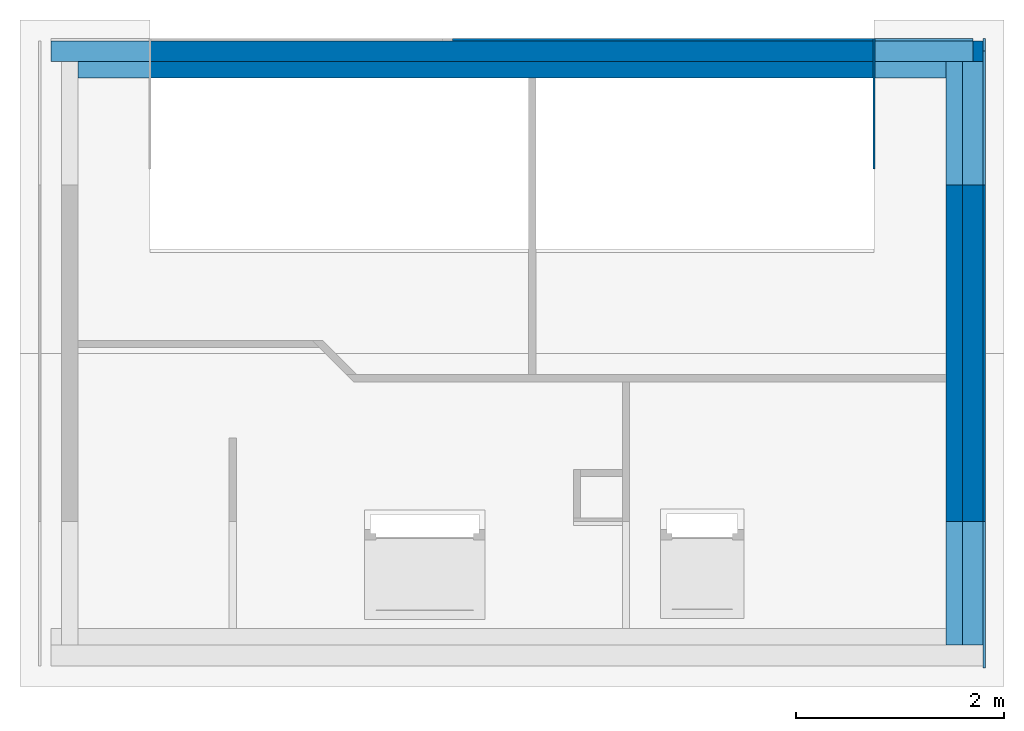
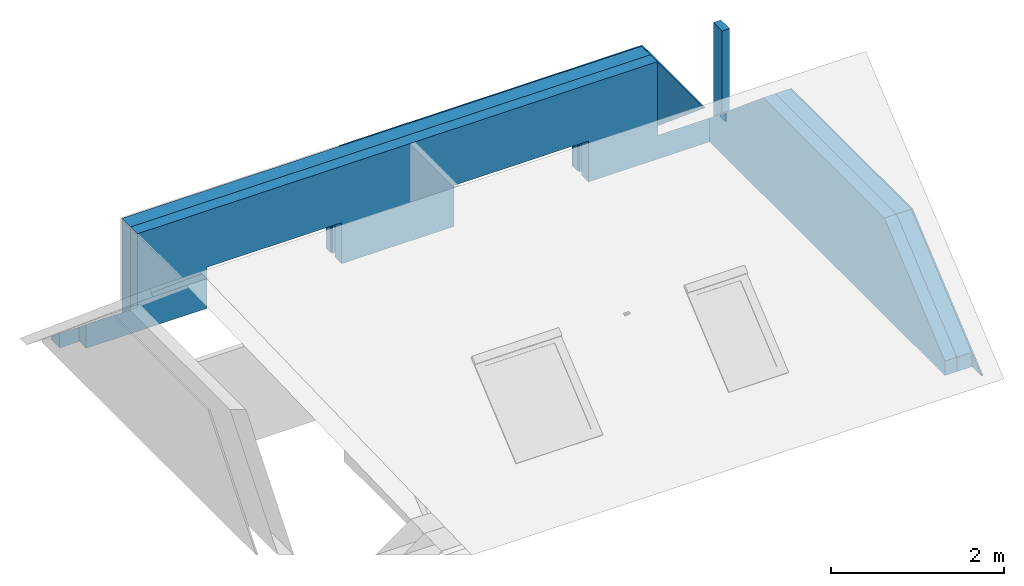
# One storey, part 2 of 5: 8 walls, 6 openings.
"""IFC2X3 building model written with IfcOpenShell, lengths in centimetres."""

from ifc_helpers import new_model, entity, si_unit, converted_unit, derived_unit, direction, frame, frame_2d, origin, place, context, subcontext, project, spatial, polyline, rectangle, outline, extrude, clip, halfspace, bounded_halfspace, faceted_brep, material, layer, layer_set, layer_usage, type_object, element, save


model = new_model("IFC2X3")

# Units and contexts
model_context = context("Model", 3, precision=0.001, world=origin(), true_north=direction((6.12303176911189e-17, 1.0)))
body_context = subcontext(model_context, "Body", "Model", "MODEL_VIEW")
ifc_project = project(units=[si_unit("LENGTHUNIT", "METRE", prefix="CENTI"), si_unit("AREAUNIT", "SQUARE_METRE"), si_unit("VOLUMEUNIT", "CUBIC_METRE"), converted_unit("PLANEANGLEUNIT", "DEGREE", entity("IfcRatioMeasure", 0.0174532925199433), si_unit("PLANEANGLEUNIT", "RADIAN"), dimensions=[0, 0, 0, 0, 0, 0, 0]), si_unit("MASSUNIT", "GRAM", prefix="KILO"), derived_unit("MASSDENSITYUNIT", [(si_unit("MASSUNIT", "GRAM", prefix="KILO"), 1), (si_unit("LENGTHUNIT", "METRE"), -3)]), derived_unit("MOMENTOFINERTIAUNIT", [(si_unit("LENGTHUNIT", "METRE"), 4)]), si_unit("TIMEUNIT", "SECOND"), si_unit("FREQUENCYUNIT", "HERTZ"), si_unit("THERMODYNAMICTEMPERATUREUNIT", "DEGREE_CELSIUS"), derived_unit("THERMALTRANSMITTANCEUNIT", [(si_unit("MASSUNIT", "GRAM", prefix="KILO"), 1), (si_unit("THERMODYNAMICTEMPERATUREUNIT", "KELVIN"), -1), (si_unit("TIMEUNIT", "SECOND"), -3)]), derived_unit("VOLUMETRICFLOWRATEUNIT", [(si_unit("LENGTHUNIT", "METRE"), 3), (si_unit("TIMEUNIT", "SECOND"), -1)]), si_unit("ELECTRICCURRENTUNIT", "AMPERE"), si_unit("ELECTRICVOLTAGEUNIT", "VOLT"), si_unit("POWERUNIT", "WATT"), si_unit("FORCEUNIT", "NEWTON", prefix="KILO"), si_unit("ILLUMINANCEUNIT", "LUX"), si_unit("LUMINOUSFLUXUNIT", "LUMEN"), si_unit("LUMINOUSINTENSITYUNIT", "CANDELA"), derived_unit("USERDEFINED", [(si_unit("MASSUNIT", "GRAM", prefix="KILO"), -1), (si_unit("LENGTHUNIT", "METRE"), -2), (si_unit("TIMEUNIT", "SECOND"), 3), (si_unit("LUMINOUSFLUXUNIT", "LUMEN"), 1)]), derived_unit("LINEARVELOCITYUNIT", [(si_unit("LENGTHUNIT", "METRE"), 1), (si_unit("TIMEUNIT", "SECOND"), -1)]), si_unit("PRESSUREUNIT", "PASCAL"), derived_unit("USERDEFINED", [(si_unit("LENGTHUNIT", "METRE"), -2), (si_unit("MASSUNIT", "GRAM", prefix="KILO"), 1), (si_unit("TIMEUNIT", "SECOND"), -2)]), derived_unit("LINEARFORCEUNIT", [(si_unit("MASSUNIT", "GRAM", prefix="KILO"), 1), (si_unit("LENGTHUNIT", "METRE"), 1), (si_unit("TIMEUNIT", "SECOND"), -2), (si_unit("LENGTHUNIT", "METRE"), -1)]), derived_unit("PLANARFORCEUNIT", [(si_unit("MASSUNIT", "GRAM", prefix="KILO"), 1), (si_unit("LENGTHUNIT", "METRE"), 1), (si_unit("TIMEUNIT", "SECOND"), -2), (si_unit("LENGTHUNIT", "METRE"), -2)])], contexts=[model_context])

# Site, building, storey
site_placement = place(None, origin())
site = spatial("IfcSite", under=ifc_project, at=site_placement, Name="Surface", CompositionType="ELEMENT")
building_placement = place(site_placement, origin())
building = spatial("IfcBuilding", under=site, at=building_placement, CompositionType="ELEMENT")
storey_placement = place(building_placement, frame((0.0, 0.0, 365.0)))
storey = spatial("IfcBuildingStorey", under=building, at=storey_placement, Name="3.65_Sablière", CompositionType="ELEMENT", Elevation=365.0)

# Wall, openings
ifc_material_1 = material(Name="Maçonnerie - Béton")
ifc_layer_1 = layer(ifc_material_1, 20.0)
ifc_layer_set_1 = layer_set([ifc_layer_1], Name="Mur de base:Mur 20")
ifc_layer_usage_1 = layer_usage(ifc_layer_set_1, "AXIS2", "POSITIVE", -10.0)
wall_type_1 = type_object("IfcWallType", Name="Mur de base:Mur 20", PredefinedType="STANDARD", material=ifc_layer_set_1)
wall_1_placement = place(storey_placement, frame((-882.177260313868, 711.99231712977, 0.0), z_axis=(0.0, 0.0, 1.0), x_axis=(-1.0, 0.0, 0.0)))
wall_1 = element("IfcWallStandardCase", 1, at=wall_1_placement, inside=storey, type_object=wall_type_1, material=ifc_layer_usage_1, Name="Mur de base:Mur 20", ObjectType="Mur de base:Mur 20", context=body_context, shape_type="Clipping", body=[
    clip(clip(clip(extrude(rectangle(XDim=896.000000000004, YDim=20.0, at=frame_2d((448.000000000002, -4.44089209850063e-15), x_axis=(-1.0, 0.0))), origin(), (0.0, 0.0, 1.0), 138.0), bounded_halfspace(frame((0.0, -10.0, 3.73199262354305), z_axis=(0.0, -0.642787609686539, 0.766044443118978), x_axis=(1.0, 0.0, 0.0)), False, frame((0.0, -10.0, 3.73199262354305)), polyline([(0.0, 0.0), (105.0, 0.0), (105.0, 20.0), (36.0, 20.0), (20.0, 20.0), (0.0, 20.0), (0.0, 10.0), (0.0, 0.0)]))), bounded_halfspace(frame((801.0, -10.0, 3.73199262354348), z_axis=(0.0, -0.642787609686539, 0.766044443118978), x_axis=(1.0, 0.0, 0.0)), False, frame((801.0, -10.0, 3.73199262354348)), polyline([(0.0, 0.0), (95.0, 0.0), (95.0, 20.0), (69.0, 20.0), (0.0, 20.0), (0.0, 0.0)]))), halfspace(frame((0.0, 0.0, -108.0)), True)),
])
opening_1_placement = place(wall_1_placement, frame((383.0, 50.0, -28.9654202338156), z_axis=(0.0, 0.0, 1.0), x_axis=(-1.0, 0.0, 0.0)))
element("IfcOpeningElement", 2, at=opening_1_placement, cuts=wall_1, Name="Mur de base:Mur 20", ObjectType="Opening", context=body_context, shape_type="Brep", body=[
    faceted_brep([(5.0, 48.0, 6.96542023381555), (5.0, 50.0, 6.96542023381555), (5.0, 50.0, 86.9654202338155), (5.0, 100.0, 86.9654202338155), (5.0, 100.0, 0.0), (5.0, 48.0, 5.46542023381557), (185.0, 0.0, 6.96542023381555), (185.0, 40.0, 6.96542023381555), (185.0, 40.0, 86.9654202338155), (185.0, 0.0, 86.9654202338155), (5.0, 0.0, 6.96542023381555), (5.0, 40.0, 6.96542023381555), (0.0, 40.0, 6.96542023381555), (0.0, 47.0, 6.96542023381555), (4.0, 47.0, 6.96542023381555), (4.0, 50.0, 6.96542023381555), (185.0, 48.0, 6.96542023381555), (185.0, 50.0, 6.96542023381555), (186.0, 50.0, 6.96542023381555), (186.0, 47.0, 6.96542023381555), (190.0, 47.0, 6.96542023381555), (190.0, 40.0, 6.96542023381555), (5.0, 0.0, 86.9654202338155), (185.0, 50.0, 86.9654202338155), (185.0, 100.0, 86.9654202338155), (185.0, 100.0, 0.0), (185.0, 48.0, 5.46542023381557), (0.0, 40.0, 91.9654202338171), (0.0, 47.0, 91.9654202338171), (190.0, 47.0, 91.9654202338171), (186.0, 47.0, 87.9654202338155), (4.0, 47.0, 87.9654202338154), (4.0, 50.0, 87.9654202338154), (186.0, 50.0, 87.9654202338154), (5.0, 40.0, 86.9654202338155), (190.0, 40.0, 91.9654202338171)], [[[0, 1, 2, 3, 4, 5]], [[6, 7, 8, 9]], [[10, 11, 12, 13, 14, 15, 1, 0, 16, 17, 18, 19, 20, 21, 7, 6]], [[10, 6, 9, 22]], [[3, 2, 23, 24]], [[3, 24, 25, 4]], [[4, 25, 26, 5]], [[5, 26, 16, 0]], [[12, 27, 28, 13]], [[13, 28, 29, 20, 19, 30, 31, 14]], [[14, 31, 32, 15]], [[15, 32, 33, 18, 17, 23, 2, 1]], [[11, 34, 8, 7, 21, 35, 27, 12]], [[27, 35, 29, 28]], [[30, 33, 32, 31]], [[29, 35, 21, 20]], [[19, 18, 33, 30]], [[9, 8, 34, 22]], [[24, 23, 17, 16, 26, 25]], [[22, 34, 11, 10]]]),
])
opening_2_placement = place(wall_1_placement, frame((713.0, 50.0, -28.9654202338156), z_axis=(0.0, 0.0, 1.0), x_axis=(-1.0, 0.0, 0.0)))
element("IfcOpeningElement", 3, at=opening_2_placement, cuts=wall_1, Name="Mur de base:Mur 20", ObjectType="Opening", context=body_context, shape_type="Brep", body=[
    faceted_brep([(5.0, 48.0, 6.96542023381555), (5.0, 50.0, 6.96542023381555), (5.0, 50.0, 86.9654202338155), (5.0, 100.0, 86.9654202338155), (5.0, 100.0, 0.0), (5.0, 48.0, 5.46542023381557), (185.0, 0.0, 6.96542023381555), (185.0, 40.0, 6.96542023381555), (185.0, 40.0, 86.9654202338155), (185.0, 0.0, 86.9654202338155), (5.0, 0.0, 6.96542023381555), (5.0, 40.0, 6.96542023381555), (0.0, 40.0, 6.96542023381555), (0.0, 47.0, 6.96542023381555), (4.0, 47.0, 6.96542023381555), (4.0, 50.0, 6.96542023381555), (185.0, 48.0, 6.96542023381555), (185.0, 50.0, 6.96542023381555), (186.0, 50.0, 6.96542023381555), (186.0, 47.0, 6.96542023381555), (190.0, 47.0, 6.96542023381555), (190.0, 40.0, 6.96542023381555), (5.0, 0.0, 86.9654202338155), (185.0, 50.0, 86.9654202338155), (185.0, 100.0, 86.9654202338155), (185.0, 100.0, 0.0), (185.0, 48.0, 5.46542023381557), (0.0, 40.0, 91.9654202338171), (0.0, 47.0, 91.9654202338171), (190.0, 47.0, 91.9654202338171), (186.0, 47.0, 87.9654202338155), (4.0, 47.0, 87.9654202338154), (4.0, 50.0, 87.9654202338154), (186.0, 50.0, 87.9654202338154), (5.0, 40.0, 86.9654202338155), (190.0, 40.0, 91.9654202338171)], [[[0, 1, 2, 3, 4, 5]], [[6, 7, 8, 9]], [[10, 11, 12, 13, 14, 15, 1, 0, 16, 17, 18, 19, 20, 21, 7, 6]], [[10, 6, 9, 22]], [[3, 2, 23, 24]], [[3, 24, 25, 4]], [[4, 25, 26, 5]], [[5, 26, 16, 0]], [[12, 27, 28, 13]], [[13, 28, 29, 20, 19, 30, 31, 14]], [[14, 31, 32, 15]], [[15, 32, 33, 18, 17, 23, 2, 1]], [[11, 34, 8, 7, 21, 35, 27, 12]], [[27, 35, 29, 28]], [[30, 33, 32, 31]], [[29, 35, 21, 20]], [[19, 18, 33, 30]], [[9, 8, 34, 22]], [[24, 23, 17, 16, 26, 25]], [[22, 34, 11, 10]]]),
])

# Wall
ifc_layer_usage_2 = layer_usage(ifc_layer_set_1, "AXIS2", "NEGATIVE", 10.0)
wall_2_placement = place(storey_placement, frame((-892.177260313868, 721.992317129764, 0.0), z_axis=(0.0, 0.0, 1.0), x_axis=(0.0, -1.0, 0.0)))
element("IfcWallStandardCase", 4, at=wall_2_placement, inside=storey, type_object=wall_type_1, material=ifc_layer_usage_2, Name="Mur de base:Mur 20", ObjectType="Mur de base:Mur 20", context=body_context, shape_type="Clipping", body=[
    clip(clip(clip(extrude(outline(polyline([(581.0, -10.0), (581.0, 10.0), (0.0, 10.0), (0.0, 0.0), (20.0, 0.0), (20.0, -10.0), (581.0, -10.0)])), origin(), (0.0, 0.0, 1.0), 138.0), bounded_halfspace(frame((20.0, -10.0, 20.5139852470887), z_axis=(-0.642787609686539, 0.0, 0.766044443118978), x_axis=(0.0, -1.0, 0.0)), False, frame((20.0, -10.0, 20.5139852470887)), polyline([(0.0, 0.0), (280.500000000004, 0.0), (280.500000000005, 20.0), (0.0, 20.0), (0.0, 0.0)]))), bounded_halfspace(frame((300.499999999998, -10.0, 255.881431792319), z_axis=(0.642787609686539, 0.0, 0.766044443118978), x_axis=(0.0, 1.0, 0.0)), False, frame((300.499999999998, -10.0, 255.881431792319)), polyline([(0.0, 0.0), (280.499999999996, 0.0), (280.499999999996, 20.0), (0.0, 20.0), (0.0, 0.0)]))), halfspace(frame((0.0, 0.0, -108.0)), True)),
])

# Wall, openings
ifc_material_2 = material(Name="Maçonnerie - Enduit")
ifc_layer_2 = layer(ifc_material_2, 2.0)
ifc_layer_set_2 = layer_set([ifc_layer_2], Name="Mur de base:Enduit 2")
ifc_layer_usage_3 = layer_usage(ifc_layer_set_2, "AXIS2", "POSITIVE", -1.0)
wall_type_2 = type_object("IfcWallType", Name="Mur de base:Enduit 2", PredefinedType="STANDARD", material=ifc_layer_set_2)
wall_3_placement = place(storey_placement, frame((-882.177260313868, 722.992317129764, 0.0), z_axis=(0.0, 0.0, 1.0), x_axis=(-1.0, 0.0, 0.0)))
wall_3 = element("IfcWallStandardCase", 5, at=wall_3_placement, inside=storey, type_object=wall_type_2, material=ifc_layer_usage_3, Name="Mur de base:Enduit 2", ObjectType="Mur de base:Enduit 2", context=body_context, shape_type="Clipping", body=[
    clip(clip(extrude(rectangle(XDim=500.000000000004, YDim=1.99999999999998, at=frame_2d((260.000000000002, 2.48134846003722e-14), x_axis=(-1.0, 0.0))), origin(), (0.0, 0.0, 1.0), 138.0), bounded_halfspace(frame((0.0, -1.0, 2.05379336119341), z_axis=(0.0, -0.642787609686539, 0.766044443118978), x_axis=(1.0, 0.0, 0.0)), False, frame((0.0, -1.0, 2.05379336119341)), polyline([(0.0, 0.0), (105.0, 0.0), (105.0, 2.0), (0.0, 2.0), (0.0, 0.0)]))), halfspace(frame((0.0, 0.0, -373.0)), True)),
])
opening_3_placement = place(wall_3_placement, frame((383.0, 61.0, -28.9654202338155)))
element("IfcOpeningElement", 6, at=opening_3_placement, cuts=wall_3, Name="Mur de base:Enduit 2", ObjectType="Opening", context=body_context, shape_type="Brep", body=[
    faceted_brep([(-5.0, -48.0, 6.96542023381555), (-5.0, -50.0, 6.96542023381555), (-5.0, -50.0, 86.9654202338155), (-5.0, -100.0, 86.9654202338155), (-5.0, -100.0, 0.0), (-5.0, -48.0, 5.46542023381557), (-185.0, 0.0, 6.96542023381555), (-185.0, -40.0, 6.96542023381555), (-185.0, -40.0, 86.9654202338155), (-185.0, 0.0, 86.9654202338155), (-5.0, 0.0, 6.96542023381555), (-5.0, -40.0, 6.96542023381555), (0.0, -40.0, 6.96542023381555), (0.0, -47.0, 6.96542023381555), (-4.0, -47.0, 6.96542023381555), (-4.0, -50.0, 6.96542023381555), (-185.0, -48.0, 6.96542023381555), (-185.0, -50.0, 6.96542023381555), (-186.0, -50.0, 6.96542023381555), (-186.0, -47.0, 6.96542023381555), (-190.0, -47.0, 6.96542023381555), (-190.0, -40.0, 6.96542023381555), (-5.0, 0.0, 86.9654202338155), (-185.0, -50.0, 86.9654202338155), (-185.0, -100.0, 86.9654202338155), (-185.0, -100.0, 0.0), (-185.0, -48.0, 5.46542023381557), (0.0, -40.0, 91.9654202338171), (0.0, -47.0, 91.9654202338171), (-190.0, -47.0, 91.9654202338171), (-186.0, -47.0, 87.9654202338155), (-4.0, -47.0, 87.9654202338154), (-4.0, -50.0, 87.9654202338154), (-186.0, -50.0, 87.9654202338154), (-5.0, -40.0, 86.9654202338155), (-190.0, -40.0, 91.9654202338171)], [[[0, 1, 2, 3, 4, 5]], [[6, 7, 8, 9]], [[10, 11, 12, 13, 14, 15, 1, 0, 16, 17, 18, 19, 20, 21, 7, 6]], [[10, 6, 9, 22]], [[3, 2, 23, 24]], [[3, 24, 25, 4]], [[4, 25, 26, 5]], [[5, 26, 16, 0]], [[12, 27, 28, 13]], [[13, 28, 29, 20, 19, 30, 31, 14]], [[14, 31, 32, 15]], [[15, 32, 33, 18, 17, 23, 2, 1]], [[11, 34, 8, 7, 21, 35, 27, 12]], [[27, 35, 29, 28]], [[30, 33, 32, 31]], [[29, 35, 21, 20]], [[19, 18, 33, 30]], [[9, 8, 34, 22]], [[24, 23, 17, 16, 26, 25]], [[22, 34, 11, 10]]]),
])
opening_4_placement = place(wall_3_placement, frame((713.0, 61.0, -28.9654202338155)))
element("IfcOpeningElement", 7, at=opening_4_placement, cuts=wall_3, Name="Mur de base:Enduit 2", ObjectType="Opening", context=body_context, shape_type="Brep", body=[
    faceted_brep([(-5.0, -48.0, 6.96542023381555), (-5.0, -50.0, 6.96542023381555), (-5.0, -50.0, 86.9654202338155), (-5.0, -100.0, 86.9654202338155), (-5.0, -100.0, 0.0), (-5.0, -48.0, 5.46542023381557), (-185.0, 0.0, 6.96542023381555), (-185.0, -40.0, 6.96542023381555), (-185.0, -40.0, 86.9654202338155), (-185.0, 0.0, 86.9654202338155), (-5.0, 0.0, 6.96542023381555), (-5.0, -40.0, 6.96542023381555), (0.0, -40.0, 6.96542023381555), (0.0, -47.0, 6.96542023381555), (-4.0, -47.0, 6.96542023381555), (-4.0, -50.0, 6.96542023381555), (-185.0, -48.0, 6.96542023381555), (-185.0, -50.0, 6.96542023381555), (-186.0, -50.0, 6.96542023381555), (-186.0, -47.0, 6.96542023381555), (-190.0, -47.0, 6.96542023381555), (-190.0, -40.0, 6.96542023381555), (-5.0, 0.0, 86.9654202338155), (-185.0, -50.0, 86.9654202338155), (-185.0, -100.0, 86.9654202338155), (-185.0, -100.0, 0.0), (-185.0, -48.0, 5.46542023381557), (0.0, -40.0, 91.9654202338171), (0.0, -47.0, 91.9654202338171), (-190.0, -47.0, 91.9654202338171), (-186.0, -47.0, 87.9654202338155), (-4.0, -47.0, 87.9654202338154), (-4.0, -50.0, 87.9654202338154), (-186.0, -50.0, 87.9654202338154), (-5.0, -40.0, 86.9654202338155), (-190.0, -40.0, 91.9654202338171)], [[[0, 1, 2, 3, 4, 5]], [[6, 7, 8, 9]], [[10, 11, 12, 13, 14, 15, 1, 0, 16, 17, 18, 19, 20, 21, 7, 6]], [[10, 6, 9, 22]], [[3, 2, 23, 24]], [[3, 24, 25, 4]], [[4, 25, 26, 5]], [[5, 26, 16, 0]], [[12, 27, 28, 13]], [[13, 28, 29, 20, 19, 30, 31, 14]], [[14, 31, 32, 15]], [[15, 32, 33, 18, 17, 23, 2, 1]], [[11, 34, 8, 7, 21, 35, 27, 12]], [[27, 35, 29, 28]], [[30, 33, 32, 31]], [[29, 35, 21, 20]], [[19, 18, 33, 30]], [[9, 8, 34, 22]], [[24, 23, 17, 16, 26, 25]], [[22, 34, 11, 10]]]),
])

# Walls
ifc_layer_usage_4 = layer_usage(ifc_layer_set_2, "AXIS2", "NEGATIVE", 1.0)
wall_4_placement = place(storey_placement, frame((-881.177260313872, 711.992317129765, 0.0), z_axis=(0.0, 0.0, 1.0), x_axis=(0.0, -1.0, 0.0)))
element("IfcWallStandardCase", 8, at=wall_4_placement, inside=storey, type_object=wall_type_2, material=ifc_layer_usage_4, Name="Mur de base:Enduit 2", ObjectType="Mur de base:Enduit 2", context=body_context, shape_type="Clipping", body=[
    clip(clip(clip(extrude(rectangle(XDim=592.999999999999, YDim=1.99999999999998, at=frame_2d((296.5, -7.71605002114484e-15), x_axis=(-1.0, 0.0))), origin(), (0.0, 0.0, 1.0), 138.0), bounded_halfspace(frame((0.0, -1.0, 12.1229889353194), z_axis=(-0.642787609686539, 0.0, 0.766044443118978), x_axis=(0.0, -1.0, 0.0)), False, frame((0.0, -1.0, 12.1229889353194)), polyline([(0.0, 0.0), (290.5, 0.0), (290.5, 2.0), (0.0, 2.0), (0.0, 0.0)]))), bounded_halfspace(frame((290.5, -1.0, 255.88143179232), z_axis=(0.642787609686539, 0.0, 0.766044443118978), x_axis=(0.0, 1.0, 0.0)), False, frame((290.5, -1.0, 255.88143179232)), polyline([(0.0, 0.0), (300.499999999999, 0.0), (302.499999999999, 0.0), (302.499999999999, 2.0), (0.0, 2.0), (0.0, 0.0)]))), halfspace(frame((0.0, 0.0, -108.0)), True)),
])
ifc_layer_usage_5 = layer_usage(ifc_layer_set_2, "AXIS2", "POSITIVE", -1.0)
wall_5_placement = place(storey_placement, frame((-881.177260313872, 711.992317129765, 0.0), z_axis=(0.0, 0.0, 1.0), x_axis=(0.0, 1.0, 0.0)))
element("IfcWallStandardCase", 9, at=wall_5_placement, inside=storey, type_object=wall_type_2, material=ifc_layer_usage_5, Name="Mur de base:Enduit 2", ObjectType="Mur de base:Enduit 2", context=body_context, shape_type="Clipping", body=[
    clip(clip(clip(extrude(rectangle(XDim=11.9999999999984, YDim=1.99999999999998, at=frame_2d((5.99999999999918, 0.0), x_axis=(-1.0, 0.0))), origin(), (0.0, 0.0, 1.0), 12.1229889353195), bounded_halfspace(frame((12.0, -1.0, 2.05379336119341), z_axis=(0.642787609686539, 0.0, 0.766044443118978), x_axis=(0.0, 1.0, 0.0)), False, frame((12.0, -1.0, 2.05379336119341)), polyline([(0.0, 0.0), (0.0, 2.0), (-2.0, 2.0), (-12.0, 2.0), (-12.0, 0.0), (0.0, 0.0)]))), bounded_halfspace(frame((0.0, -1.0, -83.0), z_axis=(1.0, 0.0, 0.0), x_axis=(0.0, -1.0, 0.0)), True, frame((0.0, -1.0, -83.0), z_axis=(1.0, 0.0, 0.0), x_axis=(0.0, -1.0, 0.0)), polyline([(0.0, 0.0), (-2.0, 0.0), (-2.0, -95.1229889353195), (0.0, -95.1229889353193), (0.0, 0.0)]))), halfspace(frame((0.0, 0.0, -83.0)), True)),
])
ifc_material_3 = material(Name="Zinc")
ifc_layer_3 = layer(ifc_material_3, 2.0)
ifc_layer_set_3 = layer_set([ifc_layer_3], Name="Mur de base:Bardage zinc")
ifc_layer_usage_6 = layer_usage(ifc_layer_set_3, "AXIS2", "POSITIVE", -1.0)
wall_type_3 = type_object("IfcWallType", Name="Mur de base:Bardage zinc", PredefinedType="STANDARD", material=ifc_layer_set_3)
wall_6_placement = place(storey_placement, frame((-987.177260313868, 723.992317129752, 15.1078662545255), z_axis=(0.0, 0.0, 1.0), x_axis=(0.0, -1.0, 0.0)))
element("IfcWallStandardCase", 10, at=wall_6_placement, inside=storey, type_object=wall_type_3, material=ifc_layer_usage_6, Name="Mur de base:Bardage zinc", ObjectType="Mur de base:Bardage zinc", context=body_context, shape_type="Clipping", body=[
    clip(clip(extrude(rectangle(XDim=205.747191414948, YDim=1.99999999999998, at=frame_2d((102.873595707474, 0.0), x_axis=(-1.0, 0.0))), origin(), (0.0, 0.0, 1.0), 122.892133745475), halfspace(frame((205.747191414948, -1.0, 172.642392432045), z_axis=(0.642787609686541, 0.0, -0.766044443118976), x_axis=(0.0, 1.0, 0.0)), False)), halfspace(frame((0.0, 0.0, -15.1078662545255)), True)),
])
ifc_material_4 = material(Name="Isolant rigide")
ifc_layer_4 = layer(ifc_material_4, 16.0)
ifc_layer_set_4 = layer_set([ifc_layer_4], Name="Mur de base:Doublage 16")
ifc_layer_usage_7 = layer_usage(ifc_layer_set_4, "AXIS2", "POSITIVE", -8.0)
wall_type_4 = type_object("IfcWallType", Name="Mur de base:Doublage 16", PredefinedType="STANDARD", material=ifc_layer_set_4)
wall_7_placement = place(storey_placement, frame((-910.177260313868, 701.99231712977, 0.0), z_axis=(0.0, 0.0, 1.0), x_axis=(0.0, -1.0, 0.0)))
element("IfcWallStandardCase", 11, at=wall_7_placement, inside=storey, type_object=wall_type_4, material=ifc_layer_usage_7, Name="Mur de base:Doublage 16", ObjectType="Mur de base:Doublage 16", context=body_context, shape_type="Clipping", body=[
    clip(clip(clip(extrude(rectangle(XDim=561.0, YDim=16.0, at=frame_2d((280.5, 0.0), x_axis=(-1.0, 0.0))), origin(), (0.0, 0.0, 1.0), 138.0), bounded_halfspace(frame((0.0, -8.0, 20.5139852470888), z_axis=(-0.642787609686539, 0.0, 0.766044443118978), x_axis=(0.0, -1.0, 0.0)), False, frame((0.0, -8.0, 20.5139852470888)), polyline([(0.0, 0.0), (16.0, 0.0), (280.500000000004, 0.0), (280.500000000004, 16.0), (0.0, 16.0), (0.0, 0.0)]))), bounded_halfspace(frame((280.500000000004, -8.0, 255.881431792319), z_axis=(0.642787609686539, 0.0, 0.766044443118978), x_axis=(0.0, 1.0, 0.0)), False, frame((280.500000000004, -8.0, 255.881431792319)), polyline([(0.0, 0.0), (280.499999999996, 0.0), (280.499999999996, 16.0), (0.0, 16.0), (0.0, 0.0)]))), halfspace(frame((0.0, 0.0, -102.0)), True)),
])

# Wall, openings
ifc_layer_usage_8 = layer_usage(ifc_layer_set_4, "AXIS2", "POSITIVE", -8.0)
wall_8_placement = place(storey_placement, frame((-1752.17726031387, 693.992317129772, 0.0)))
wall_8 = element("IfcWallStandardCase", 12, at=wall_8_placement, inside=storey, type_object=wall_type_4, material=ifc_layer_usage_8, Name="Mur de base:Doublage 16", ObjectType="Mur de base:Doublage 16", context=body_context, shape_type="Clipping", body=[
    clip(clip(clip(extrude(rectangle(XDim=834.000000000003, YDim=16.0, at=frame_2d((417.000000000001, 0.0), x_axis=(-1.0, 0.0))), origin(), (0.0, 0.0, 1.0), 138.0), bounded_halfspace(frame((765.0, -8.0, 33.9395793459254), z_axis=(0.0, 0.642787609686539, 0.766044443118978), x_axis=(-1.0, 0.0, 0.0)), False, frame((765.0, -8.0, 33.9395793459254)), polyline([(0.0, 0.0), (69.0, 0.0), (69.0, 16.0), (0.0, 16.0), (0.0, 0.0)]))), bounded_halfspace(frame((0.0, -8.0, 33.9395793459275), z_axis=(0.0, 0.642787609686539, 0.766044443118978), x_axis=(-1.0, 0.0, 0.0)), False, frame((0.0, -8.0, 33.9395793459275)), polyline([(0.0, 0.0), (69.0, 0.0), (69.0, 16.0), (0.0, 16.0), (0.0, 0.0)]))), halfspace(frame((0.0, 0.0, -102.0)), True)),
])
opening_5_placement = place(wall_8_placement, frame((157.0, -32.0, -28.9654202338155)))
element("IfcOpeningElement", 13, at=opening_5_placement, cuts=wall_8, Name="Mur de base:Doublage 16", ObjectType="Opening", context=body_context, shape_type="Brep", body=[
    faceted_brep([(5.0, 48.0, 6.96542023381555), (5.0, 50.0, 6.96542023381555), (5.0, 50.0, 86.9654202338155), (5.0, 100.0, 86.9654202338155), (5.0, 100.0, 0.0), (5.0, 48.0, 5.46542023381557), (185.0, 0.0, 6.96542023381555), (185.0, 40.0, 6.96542023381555), (185.0, 40.0, 86.9654202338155), (185.0, 0.0, 86.9654202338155), (5.0, 0.0, 6.96542023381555), (5.0, 40.0, 6.96542023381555), (0.0, 40.0, 6.96542023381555), (0.0, 47.0, 6.96542023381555), (4.0, 47.0, 6.96542023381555), (4.0, 50.0, 6.96542023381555), (185.0, 48.0, 6.96542023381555), (185.0, 50.0, 6.96542023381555), (186.0, 50.0, 6.96542023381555), (186.0, 47.0, 6.96542023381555), (190.0, 47.0, 6.96542023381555), (190.0, 40.0, 6.96542023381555), (5.0, 0.0, 86.9654202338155), (185.0, 50.0, 86.9654202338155), (185.0, 100.0, 86.9654202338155), (185.0, 100.0, 0.0), (185.0, 48.0, 5.46542023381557), (0.0, 40.0, 91.9654202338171), (0.0, 47.0, 91.9654202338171), (190.0, 47.0, 91.9654202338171), (186.0, 47.0, 87.9654202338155), (4.0, 47.0, 87.9654202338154), (4.0, 50.0, 87.9654202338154), (186.0, 50.0, 87.9654202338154), (5.0, 40.0, 86.9654202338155), (190.0, 40.0, 91.9654202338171)], [[[0, 1, 2, 3, 4, 5]], [[6, 7, 8, 9]], [[10, 11, 12, 13, 14, 15, 1, 0, 16, 17, 18, 19, 20, 21, 7, 6]], [[10, 6, 9, 22]], [[3, 2, 23, 24]], [[3, 24, 25, 4]], [[4, 25, 26, 5]], [[5, 26, 16, 0]], [[12, 27, 28, 13]], [[13, 28, 29, 20, 19, 30, 31, 14]], [[14, 31, 32, 15]], [[15, 32, 33, 18, 17, 23, 2, 1]], [[11, 34, 8, 7, 21, 35, 27, 12]], [[27, 35, 29, 28]], [[30, 33, 32, 31]], [[29, 35, 21, 20]], [[19, 18, 33, 30]], [[9, 8, 34, 22]], [[24, 23, 17, 16, 26, 25]], [[22, 34, 11, 10]]]),
])
opening_6_placement = place(wall_8_placement, frame((487.0, -32.0, -28.9654202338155)))
element("IfcOpeningElement", 14, at=opening_6_placement, cuts=wall_8, Name="Mur de base:Doublage 16", ObjectType="Opening", context=body_context, shape_type="Brep", body=[
    faceted_brep([(5.0, 48.0, 6.96542023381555), (5.0, 50.0, 6.96542023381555), (5.0, 50.0, 86.9654202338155), (5.0, 100.0, 86.9654202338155), (5.0, 100.0, 0.0), (5.0, 48.0, 5.46542023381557), (185.0, 0.0, 6.96542023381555), (185.0, 40.0, 6.96542023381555), (185.0, 40.0, 86.9654202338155), (185.0, 0.0, 86.9654202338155), (5.0, 0.0, 6.96542023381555), (5.0, 40.0, 6.96542023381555), (0.0, 40.0, 6.96542023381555), (0.0, 47.0, 6.96542023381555), (4.0, 47.0, 6.96542023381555), (4.0, 50.0, 6.96542023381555), (185.0, 48.0, 6.96542023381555), (185.0, 50.0, 6.96542023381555), (186.0, 50.0, 6.96542023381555), (186.0, 47.0, 6.96542023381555), (190.0, 47.0, 6.96542023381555), (190.0, 40.0, 6.96542023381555), (5.0, 0.0, 86.9654202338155), (185.0, 50.0, 86.9654202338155), (185.0, 100.0, 86.9654202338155), (185.0, 100.0, 0.0), (185.0, 48.0, 5.46542023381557), (0.0, 40.0, 91.9654202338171), (0.0, 47.0, 91.9654202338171), (190.0, 47.0, 91.9654202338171), (186.0, 47.0, 87.9654202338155), (4.0, 47.0, 87.9654202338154), (4.0, 50.0, 87.9654202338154), (186.0, 50.0, 87.9654202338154), (5.0, 40.0, 86.9654202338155), (190.0, 40.0, 91.9654202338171)], [[[0, 1, 2, 3, 4, 5]], [[6, 7, 8, 9]], [[10, 11, 12, 13, 14, 15, 1, 0, 16, 17, 18, 19, 20, 21, 7, 6]], [[10, 6, 9, 22]], [[3, 2, 23, 24]], [[3, 24, 25, 4]], [[4, 25, 26, 5]], [[5, 26, 16, 0]], [[12, 27, 28, 13]], [[13, 28, 29, 20, 19, 30, 31, 14]], [[14, 31, 32, 15]], [[15, 32, 33, 18, 17, 23, 2, 1]], [[11, 34, 8, 7, 21, 35, 27, 12]], [[27, 35, 29, 28]], [[30, 33, 32, 31]], [[29, 35, 21, 20]], [[19, 18, 33, 30]], [[9, 8, 34, 22]], [[24, 23, 17, 16, 26, 25]], [[22, 34, 11, 10]]]),
])

save(model, "model.ifc")
